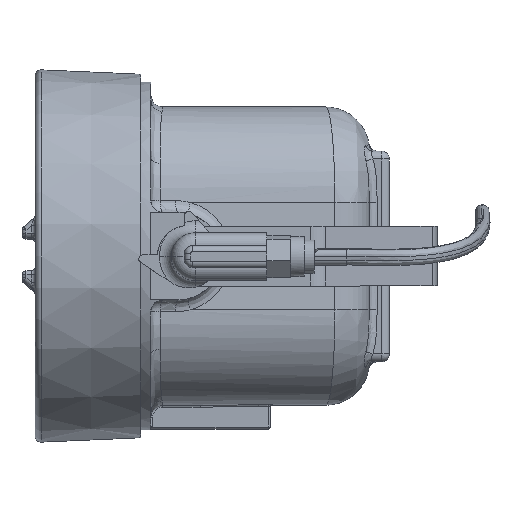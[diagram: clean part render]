
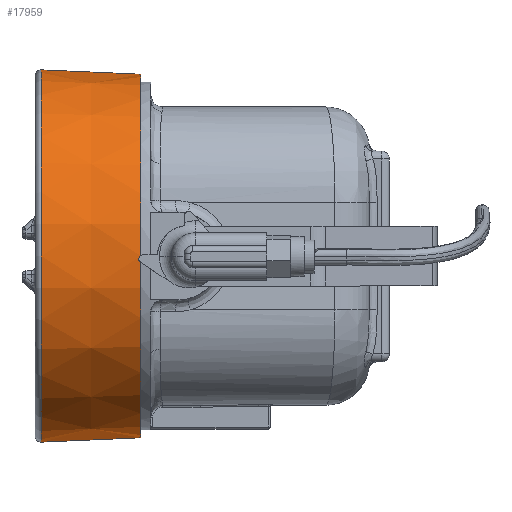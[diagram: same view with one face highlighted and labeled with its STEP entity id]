
A CAD part, left-side view. The second image highlights one B-rep face of the part: STEP entity #17959.
In plain terms, the highlighted conical face has half-angle 2.5 degrees and reference radius 119.062 mm.
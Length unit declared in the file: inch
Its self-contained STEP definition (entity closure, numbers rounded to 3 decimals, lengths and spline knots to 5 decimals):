
#17 = AXIS2_PLACEMENT_3D ( 'NONE', #23022, #9753, #17452 ) ;
#216 = DIRECTION ( 'NONE',  ( 0., -1., 0. ) ) ;
#419 = CIRCLE ( 'NONE', #10112, 4.68067 ) ;
#1244 = ORIENTED_EDGE ( 'NONE', *, *, #2949, .T. ) ;
#2176 = CARTESIAN_POINT ( 'NONE',  ( 0., 0., -4.57136 ) ) ;
#2314 = EDGE_CURVE ( 'NONE', #23933, #8823, #419, .T. ) ;
#2949 = EDGE_CURVE ( 'NONE', #14845, #23933, #9834, .T. ) ;
#3074 = VECTOR ( 'NONE', #18072, 39.37008 ) ;
#3164 = CARTESIAN_POINT ( 'NONE',  ( 0., 2.66, 4.6875 ) ) ;
#3634 = CIRCLE ( 'NONE', #8044, 4.57136 ) ;
#4851 = VECTOR ( 'NONE', #16296, 39.37008 ) ;
#4955 = CARTESIAN_POINT ( 'NONE',  ( 0., 2.66, -4.6875 ) ) ;
#5748 = CARTESIAN_POINT ( 'NONE',  ( 0., 0., 0. ) ) ;
#7031 = ORIENTED_EDGE ( 'NONE', *, *, #23219, .F. ) ;
#7402 = CARTESIAN_POINT ( 'NONE',  ( 0., 0., 4.57136 ) ) ;
#7612 = DIRECTION ( 'NONE',  ( 0., 0., -1. ) ) ;
#7722 = EDGE_LOOP ( 'NONE', ( #7031, #1244, #23039, #17117 ) ) ;
#8044 = AXIS2_PLACEMENT_3D ( 'NONE', #5748, #18824, #7612 ) ;
#8823 = VERTEX_POINT ( 'NONE', #13703 ) ;
#9753 = DIRECTION ( 'NONE',  ( 0., 1., 0. ) ) ;
#9834 = LINE ( 'NONE', #3164, #4851 ) ;
#10112 = AXIS2_PLACEMENT_3D ( 'NONE', #11481, #216, #13370 ) ;
#11481 = CARTESIAN_POINT ( 'NONE',  ( 0., 2.50346, 0. ) ) ;
#13370 = DIRECTION ( 'NONE',  ( 0., 0., -1. ) ) ;
#13703 = CARTESIAN_POINT ( 'NONE',  ( 0., 2.50346, -4.68067 ) ) ;
#14845 = VERTEX_POINT ( 'NONE', #7402 ) ;
#16296 = DIRECTION ( 'NONE',  ( 0., 0.999, 0.044 ) ) ;
#17117 = ORIENTED_EDGE ( 'NONE', *, *, #21061, .F. ) ;
#17450 = LINE ( 'NONE', #4955, #3074 ) ;
#17452 = DIRECTION ( 'NONE',  ( 0., 0., -1. ) ) ;
#17959 = ADVANCED_FACE ( 'NONE', ( #20471 ), #19880, .T. ) ;
#18072 = DIRECTION ( 'NONE',  ( 0., 0.999, -0.044 ) ) ;
#18824 = DIRECTION ( 'NONE',  ( 0., -1., 0. ) ) ;
#19880 = CONICAL_SURFACE ( 'NONE', #17, 4.6875, 0.044 ) ;
#20471 = FACE_OUTER_BOUND ( 'NONE', #7722, .T. ) ;
#21061 = EDGE_CURVE ( 'NONE', #22716, #8823, #17450, .T. ) ;
#22716 = VERTEX_POINT ( 'NONE', #2176 ) ;
#23022 = CARTESIAN_POINT ( 'NONE',  ( 0., 2.66, 0. ) ) ;
#23039 = ORIENTED_EDGE ( 'NONE', *, *, #2314, .T. ) ;
#23219 = EDGE_CURVE ( 'NONE', #14845, #22716, #3634, .T. ) ;
#23933 = VERTEX_POINT ( 'NONE', #23984 ) ;
#23984 = CARTESIAN_POINT ( 'NONE',  ( 0., 2.50346, 4.68067 ) ) ;
